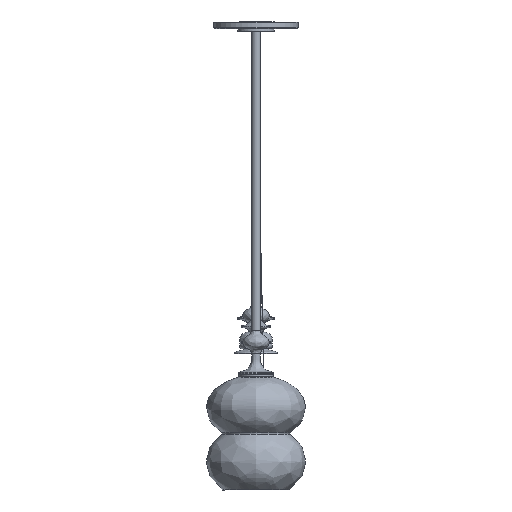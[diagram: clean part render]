
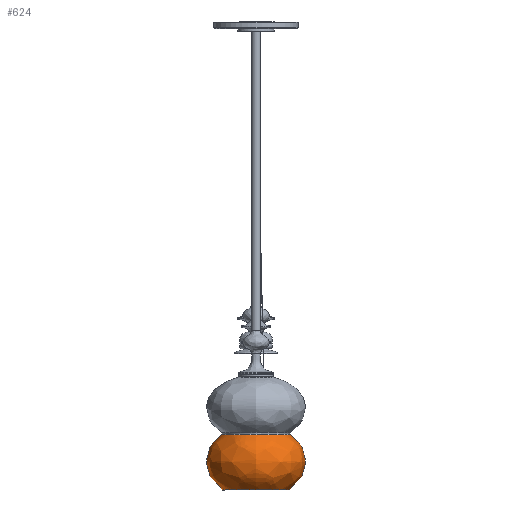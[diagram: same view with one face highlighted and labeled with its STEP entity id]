
A CAD part, left-side view. The second image highlights one B-rep face of the part: STEP entity #624.
In plain terms, the highlighted free-form (B-spline) face has degree [2, 3] with [9, 7] control points.
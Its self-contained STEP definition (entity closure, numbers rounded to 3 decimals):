
#624=ADVANCED_FACE('',(#1124),#6833,.T.);
#1124=FACE_OUTER_BOUND('',#1635,.T.);
#1635=EDGE_LOOP('',(#3276,#3277,#3278,#3279));
#3276=ORIENTED_EDGE('',*,*,#4574,.F.);
#3277=ORIENTED_EDGE('',*,*,#4579,.T.);
#3278=ORIENTED_EDGE('',*,*,#4574,.T.);
#3279=ORIENTED_EDGE('',*,*,#4583,.F.);
#4574=EDGE_CURVE('',#6343,#6346,#5758,.T.);
#4579=EDGE_CURVE('',#6343,#6343,#5763,.T.);
#4583=EDGE_CURVE('',#6346,#6346,#5767,.T.);
#5758=(
BOUNDED_CURVE()
B_SPLINE_CURVE(3,(#74801,#74802,#74803,#74804,#74805,#74806,#74807),
 .UNSPECIFIED.,.F.,.F.)
B_SPLINE_CURVE_WITH_KNOTS((4,3,4),(-35.64,-34.804,
-33.993),.UNSPECIFIED.)
CURVE()
GEOMETRIC_REPRESENTATION_ITEM()
RATIONAL_B_SPLINE_CURVE((1.,0.992,1.049,1.171,
1.053,0.996,1.))
REPRESENTATION_ITEM('')
);
#5763=(
BOUNDED_CURVE()
B_SPLINE_CURVE(2,(#74834,#74835,#74836,#74837,#74838,#74839,#74840,#74841,
#74842),.UNSPECIFIED.,.T.,.F.)
B_SPLINE_CURVE_WITH_KNOTS((3,2,2,2,3),(0.,109.905,219.81,
329.716,439.621),.UNSPECIFIED.)
CURVE()
GEOMETRIC_REPRESENTATION_ITEM()
RATIONAL_B_SPLINE_CURVE((1.,0.707,1.,0.707,1.,0.707,
1.,0.707,1.))
REPRESENTATION_ITEM('')
);
#5767=(
BOUNDED_CURVE()
B_SPLINE_CURVE(2,(#74870,#74871,#74872,#74873,#74874,#74875,#74876,#74877,
#74878),.UNSPECIFIED.,.T.,.F.)
B_SPLINE_CURVE_WITH_KNOTS((3,2,2,2,3),(0.,82.989,
165.978,248.967,331.956),.UNSPECIFIED.)
CURVE()
GEOMETRIC_REPRESENTATION_ITEM()
RATIONAL_B_SPLINE_CURVE((1.,0.707,1.,0.707,1.,0.707,
1.,0.707,1.))
REPRESENTATION_ITEM('')
);
#6343=VERTEX_POINT('',#74662);
#6346=VERTEX_POINT('',#74665);
#6833=(
BOUNDED_SURFACE()
B_SPLINE_SURFACE(2,3,((#74505,#74506,#74507,#74508,#74509,#74510,#74511),
(#74512,#74513,#74514,#74515,#74516,#74517,#74518),(#74519,#74520,#74521,
#74522,#74523,#74524,#74525),(#74526,#74527,#74528,#74529,#74530,#74531,
#74532),(#74533,#74534,#74535,#74536,#74537,#74538,#74539),(#74540,#74541,
#74542,#74543,#74544,#74545,#74546),(#74547,#74548,#74549,#74550,#74551,
#74552,#74553),(#74554,#74555,#74556,#74557,#74558,#74559,#74560),(#74561,
#74562,#74563,#74564,#74565,#74566,#74567)),.UNSPECIFIED.,.T.,.F.,.F.)
B_SPLINE_SURFACE_WITH_KNOTS((3,2,2,2,3),(4,3,4),(0.,109.905,219.81,
329.716,439.621),(-35.64,-34.804,
-33.951),.UNSPECIFIED.)
GEOMETRIC_REPRESENTATION_ITEM()
RATIONAL_B_SPLINE_SURFACE(((1.,0.992,1.049,1.171,
1.047,0.99,1.001),(0.707,
0.702,0.742,0.828,0.74,
0.7,0.708),(1.,0.992,1.049,
1.171,1.047,0.99,1.001),(0.707,
0.702,0.742,0.828,0.74,
0.7,0.708),(1.,0.992,1.049,
1.171,1.047,0.99,1.001),(0.707,
0.702,0.742,0.828,0.74,
0.7,0.708),(1.,0.992,1.049,
1.171,1.047,0.99,1.001),(0.707,
0.702,0.742,0.828,0.74,
0.7,0.708),(1.,0.992,1.049,
1.171,1.047,0.99,1.001)))
REPRESENTATION_ITEM('')
SURFACE()
);
#74505=CARTESIAN_POINT('',(-50.,-0.804,-702.546));
#74506=CARTESIAN_POINT('',(-66.553,-0.804,-691.378));
#74507=CARTESIAN_POINT('',(-74.955,-0.804,-676.326));
#74508=CARTESIAN_POINT('',(-75.,-0.804,-660.455));
#74509=CARTESIAN_POINT('',(-75.046,-0.804,-644.22));
#74510=CARTESIAN_POINT('',(-66.364,-0.804,-628.832));
#74511=CARTESIAN_POINT('',(-49.226,-0.804,-617.546));
#74512=CARTESIAN_POINT('',(-50.,-50.804,-702.546));
#74513=CARTESIAN_POINT('',(-66.553,-67.357,-691.378));
#74514=CARTESIAN_POINT('',(-74.955,-75.759,-676.326));
#74515=CARTESIAN_POINT('',(-75.,-75.804,-660.455));
#74516=CARTESIAN_POINT('',(-75.046,-75.849,-644.22));
#74517=CARTESIAN_POINT('',(-66.364,-67.168,-628.832));
#74518=CARTESIAN_POINT('',(-49.226,-50.03,-617.546));
#74519=CARTESIAN_POINT('',(0.,-50.804,-702.546));
#74520=CARTESIAN_POINT('',(0.,-67.357,-691.378));
#74521=CARTESIAN_POINT('',(0.,-75.759,-676.326));
#74522=CARTESIAN_POINT('',(0.,-75.804,-660.455));
#74523=CARTESIAN_POINT('',(0.,-75.849,-644.22));
#74524=CARTESIAN_POINT('',(0.,-67.168,-628.832));
#74525=CARTESIAN_POINT('',(0.,-50.03,-617.546));
#74526=CARTESIAN_POINT('',(50.,-50.804,-702.546));
#74527=CARTESIAN_POINT('',(66.553,-67.357,-691.378));
#74528=CARTESIAN_POINT('',(74.955,-75.759,-676.326));
#74529=CARTESIAN_POINT('',(75.,-75.804,-660.455));
#74530=CARTESIAN_POINT('',(75.046,-75.849,-644.22));
#74531=CARTESIAN_POINT('',(66.364,-67.168,-628.832));
#74532=CARTESIAN_POINT('',(49.226,-50.03,-617.546));
#74533=CARTESIAN_POINT('',(50.,-0.804,-702.546));
#74534=CARTESIAN_POINT('',(66.553,-0.804,-691.378));
#74535=CARTESIAN_POINT('',(74.955,-0.804,-676.326));
#74536=CARTESIAN_POINT('',(75.,-0.804,-660.455));
#74537=CARTESIAN_POINT('',(75.046,-0.804,-644.22));
#74538=CARTESIAN_POINT('',(66.364,-0.804,-628.832));
#74539=CARTESIAN_POINT('',(49.226,-0.804,-617.546));
#74540=CARTESIAN_POINT('',(50.,49.196,-702.546));
#74541=CARTESIAN_POINT('',(66.553,65.75,-691.378));
#74542=CARTESIAN_POINT('',(74.955,74.152,-676.326));
#74543=CARTESIAN_POINT('',(75.,74.196,-660.455));
#74544=CARTESIAN_POINT('',(75.046,74.242,-644.22));
#74545=CARTESIAN_POINT('',(66.364,65.56,-628.832));
#74546=CARTESIAN_POINT('',(49.226,48.422,-617.546));
#74547=CARTESIAN_POINT('',(0.,49.196,-702.546));
#74548=CARTESIAN_POINT('',(0.,65.75,-691.378));
#74549=CARTESIAN_POINT('',(0.,74.152,-676.326));
#74550=CARTESIAN_POINT('',(0.,74.196,-660.455));
#74551=CARTESIAN_POINT('',(0.,74.242,-644.22));
#74552=CARTESIAN_POINT('',(0.,65.56,-628.832));
#74553=CARTESIAN_POINT('',(0.,48.422,-617.546));
#74554=CARTESIAN_POINT('',(-50.,49.196,-702.546));
#74555=CARTESIAN_POINT('',(-66.553,65.75,-691.378));
#74556=CARTESIAN_POINT('',(-74.955,74.152,-676.326));
#74557=CARTESIAN_POINT('',(-75.,74.196,-660.455));
#74558=CARTESIAN_POINT('',(-75.046,74.242,-644.22));
#74559=CARTESIAN_POINT('',(-66.364,65.56,-628.832));
#74560=CARTESIAN_POINT('',(-49.226,48.422,-617.546));
#74561=CARTESIAN_POINT('',(-50.,-0.804,-702.546));
#74562=CARTESIAN_POINT('',(-66.553,-0.804,-691.378));
#74563=CARTESIAN_POINT('',(-74.955,-0.804,-676.326));
#74564=CARTESIAN_POINT('',(-75.,-0.804,-660.455));
#74565=CARTESIAN_POINT('',(-75.046,-0.804,-644.22));
#74566=CARTESIAN_POINT('',(-66.364,-0.804,-628.832));
#74567=CARTESIAN_POINT('',(-49.226,-0.804,-617.546));
#74662=CARTESIAN_POINT('',(-50.,-0.804,-702.546));
#74665=CARTESIAN_POINT('',(-51.665,-0.804,-619.224));
#74801=CARTESIAN_POINT('',(-50.,-0.804,-702.546));
#74802=CARTESIAN_POINT('',(-66.553,-0.804,-691.378));
#74803=CARTESIAN_POINT('',(-74.955,-0.804,-676.326));
#74804=CARTESIAN_POINT('',(-75.,-0.804,-660.455));
#74805=CARTESIAN_POINT('',(-75.043,-0.804,-645.103));
#74806=CARTESIAN_POINT('',(-67.237,-0.804,-630.425));
#74807=CARTESIAN_POINT('',(-51.665,-0.804,-619.224));
#74834=CARTESIAN_POINT('',(-50.,-0.804,-702.546));
#74835=CARTESIAN_POINT('',(-50.,-50.804,-702.546));
#74836=CARTESIAN_POINT('',(0.,-50.804,-702.546));
#74837=CARTESIAN_POINT('',(50.,-50.804,-702.546));
#74838=CARTESIAN_POINT('',(50.,-0.804,-702.546));
#74839=CARTESIAN_POINT('',(50.,49.196,-702.546));
#74840=CARTESIAN_POINT('',(0.,49.196,-702.546));
#74841=CARTESIAN_POINT('',(-50.,49.196,-702.546));
#74842=CARTESIAN_POINT('',(-50.,-0.804,-702.546));
#74870=CARTESIAN_POINT('',(-51.665,-0.804,-619.224));
#74871=CARTESIAN_POINT('',(-51.665,-52.469,-619.224));
#74872=CARTESIAN_POINT('',(0.,-52.469,-619.224));
#74873=CARTESIAN_POINT('',(51.665,-52.469,-619.224));
#74874=CARTESIAN_POINT('',(51.665,-0.804,-619.224));
#74875=CARTESIAN_POINT('',(51.665,50.861,-619.224));
#74876=CARTESIAN_POINT('',(0.,50.861,-619.224));
#74877=CARTESIAN_POINT('',(-51.665,50.861,-619.224));
#74878=CARTESIAN_POINT('',(-51.665,-0.804,-619.224));
